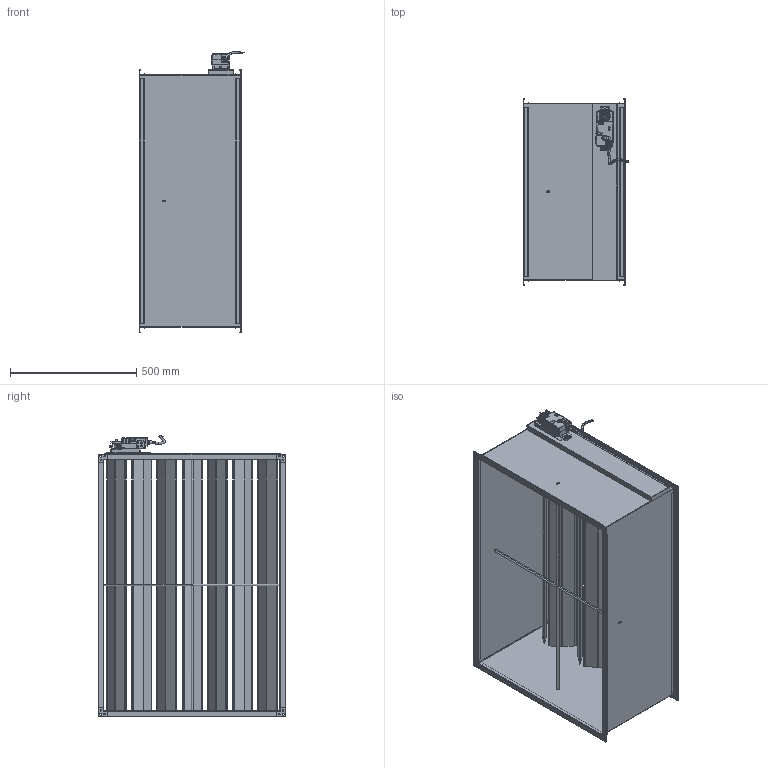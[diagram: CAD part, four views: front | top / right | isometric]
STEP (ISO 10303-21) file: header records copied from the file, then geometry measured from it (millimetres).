
FILE_DESCRIPTION (( 'STEP AP214' ), '1' );
FILE_NAME ('VAV-S1000700.STEP', '2025-05-08T12:39:15', ( '' ), ( '' ), 'SwSTEP 2.0', 'SolidWorks 2025', '' );
FILE_SCHEMA (( 'AUTOMOTIVE_DESIGN' ));
Length unit declared in the file: millimetre
Products named in the file (1): VAV-S1000700
Bounding box: 419.64 x 741 x 1113.69 mm (x, y, z)
Surface area: 5722771 mm2 (no closed solid volume)
Topology: 0 solids, 48 shells, 2136 faces, 5591 edges, 3562 vertices
Faces by surface type: plane 1557, cylinder 526, bspline 24, sphere 18, cone 10, torus 1
Full cylindrical faces by diameter (mm): 1 x4, 6 x17, 8 x1, 9 x8, 11 x1, 20 x1, 21 x2
Entity records: 93413 total; most frequent: CARTESIAN_POINT 41887, ORIENTED_EDGE 10979, DIRECTION 7165, EDGE_CURVE 5513, VERTEX_POINT 3539, B_SPLINE_CURVE_WITH_KNOTS 3170, AXIS2_PLACEMENT_3D 2721, EDGE_LOOP 2345
